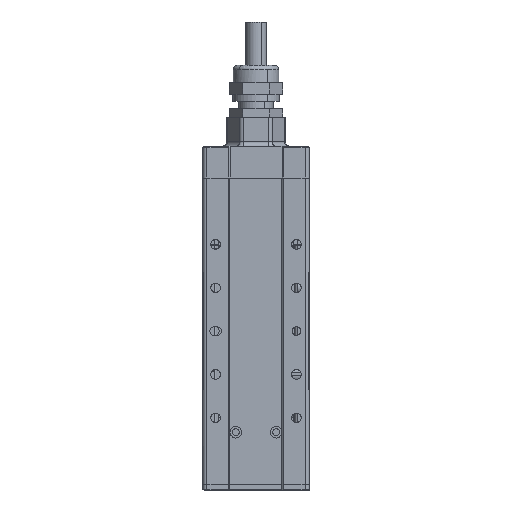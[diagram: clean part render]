
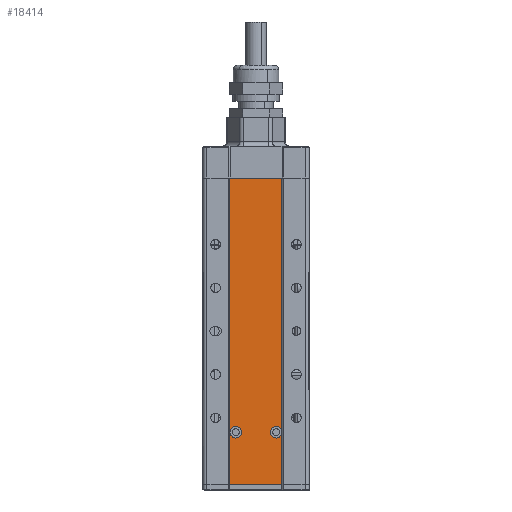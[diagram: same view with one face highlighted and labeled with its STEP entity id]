
A CAD part, front view. The second image highlights one B-rep face of the part: STEP entity #18414.
In plain terms, the highlighted planar face has unit normal (0, -1, 0).
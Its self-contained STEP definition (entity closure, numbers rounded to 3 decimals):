
#87 = VECTOR ( 'NONE', #21578, 1000. ) ;
#109 = CARTESIAN_POINT ( 'NONE',  ( 5.527, -13.558, 32. ) ) ;
#320 = VERTEX_POINT ( 'NONE', #13777 ) ;
#1490 = CARTESIAN_POINT ( 'NONE',  ( -10.473, -13.558, 14. ) ) ;
#1662 = AXIS2_PLACEMENT_3D ( 'NONE', #1490, #20070, #5834 ) ;
#1779 = EDGE_LOOP ( 'NONE', ( #23315, #22729, #22719, #24799, #9998, #25280, #20981, #6293, #4975, #2853 ) ) ;
#2021 = EDGE_CURVE ( 'NONE', #9299, #9116, #19161, .T. ) ;
#2453 = CARTESIAN_POINT ( 'NONE',  ( -10.473, -13.558, 32. ) ) ;
#2853 = ORIENTED_EDGE ( 'NONE', *, *, #15925, .F. ) ;
#3342 = LINE ( 'NONE', #23634, #9493 ) ;
#3620 = AXIS2_PLACEMENT_3D ( 'NONE', #5995, #19971, #9686 ) ;
#4477 = CARTESIAN_POINT ( 'NONE',  ( -10.473, -13.558, 14. ) ) ;
#4654 = DIRECTION ( 'NONE',  ( -1., 0., 0. ) ) ;
#4975 = ORIENTED_EDGE ( 'NONE', *, *, #5199, .F. ) ;
#5199 = EDGE_CURVE ( 'NONE', #6371, #16030, #19613, .T. ) ;
#5834 = DIRECTION ( 'NONE',  ( -1., 0., 0. ) ) ;
#5995 = CARTESIAN_POINT ( 'NONE',  ( 5.527, -13.558, 32. ) ) ;
#6175 = CARTESIAN_POINT ( 'NONE',  ( 7.527, -13.558, 32. ) ) ;
#6293 = ORIENTED_EDGE ( 'NONE', *, *, #25617, .T. ) ;
#6371 = VERTEX_POINT ( 'NONE', #7585 ) ;
#6867 = CARTESIAN_POINT ( 'NONE',  ( 7.527, -13.558, 14. ) ) ;
#7172 = CIRCLE ( 'NONE', #21902, 2. ) ;
#7585 = CARTESIAN_POINT ( 'NONE',  ( 3.527, -13.558, 32. ) ) ;
#7854 = EDGE_CURVE ( 'NONE', #13885, #320, #22657, .T. ) ;
#9116 = VERTEX_POINT ( 'NONE', #25049 ) ;
#9299 = VERTEX_POINT ( 'NONE', #15928 ) ;
#9302 = DIRECTION ( 'NONE',  ( 0., 0., 1. ) ) ;
#9435 = VERTEX_POINT ( 'NONE', #2453 ) ;
#9484 = CARTESIAN_POINT ( 'NONE',  ( -8.473, -13.558, 32. ) ) ;
#9493 = VECTOR ( 'NONE', #11372, 1000. ) ;
#9686 = DIRECTION ( 'NONE',  ( -1., 0., 0. ) ) ;
#9740 = DIRECTION ( 'NONE',  ( 0., -1., 0. ) ) ;
#9998 = ORIENTED_EDGE ( 'NONE', *, *, #21961, .F. ) ;
#10570 = DIRECTION ( 'NONE',  ( 0., -1., 0. ) ) ;
#11295 = EDGE_CURVE ( 'NONE', #11786, #9435, #13134, .T. ) ;
#11325 = DIRECTION ( 'NONE',  ( -1., 0., 0. ) ) ;
#11372 = DIRECTION ( 'NONE',  ( 0., 0., 1. ) ) ;
#11786 = VERTEX_POINT ( 'NONE', #15295 ) ;
#12245 = DIRECTION ( 'NONE',  ( -1., 0., 0. ) ) ;
#12444 = AXIS2_PLACEMENT_3D ( 'NONE', #109, #9740, #13691 ) ;
#13134 = CIRCLE ( 'NONE', #21574, 2. ) ;
#13535 = CARTESIAN_POINT ( 'NONE',  ( -10.473, -13.558, 14. ) ) ;
#13691 = DIRECTION ( 'NONE',  ( -1., 0., 0. ) ) ;
#13777 = CARTESIAN_POINT ( 'NONE',  ( -10.473, -13.558, 14. ) ) ;
#13885 = VERTEX_POINT ( 'NONE', #6867 ) ;
#14071 = LINE ( 'NONE', #17783, #21696 ) ;
#14726 = EDGE_CURVE ( 'NONE', #9435, #9116, #14071, .T. ) ;
#15238 = CARTESIAN_POINT ( 'NONE',  ( 7.527, -13.558, 14. ) ) ;
#15295 = CARTESIAN_POINT ( 'NONE',  ( -6.473, -13.558, 32. ) ) ;
#15763 = LINE ( 'NONE', #15238, #26030 ) ;
#15925 = EDGE_CURVE ( 'NONE', #16030, #6371, #24194, .T. ) ;
#15928 = CARTESIAN_POINT ( 'NONE',  ( 7.527, -13.558, 120. ) ) ;
#16030 = VERTEX_POINT ( 'NONE', #6175 ) ;
#16915 = CARTESIAN_POINT ( 'NONE',  ( -10.473, -13.558, 120. ) ) ;
#17271 = DIRECTION ( 'NONE',  ( 0., -1., 0. ) ) ;
#17437 = DIRECTION ( 'NONE',  ( -1., 0., 0. ) ) ;
#17783 = CARTESIAN_POINT ( 'NONE',  ( -10.473, -13.558, 14. ) ) ;
#17831 = FACE_OUTER_BOUND ( 'NONE', #1779, .T. ) ;
#18414 = ADVANCED_FACE ( 'NONE', ( #17831 ), #23762, .F. ) ;
#19161 = LINE ( 'NONE', #16915, #21802 ) ;
#19613 = CIRCLE ( 'NONE', #3620, 2. ) ;
#19732 = EDGE_CURVE ( 'NONE', #16030, #9299, #15763, .T. ) ;
#19971 = DIRECTION ( 'NONE',  ( 0., -1., 0. ) ) ;
#20070 = DIRECTION ( 'NONE',  ( 0., 1., 0. ) ) ;
#20475 = CARTESIAN_POINT ( 'NONE',  ( -8.473, -13.558, 32. ) ) ;
#20981 = ORIENTED_EDGE ( 'NONE', *, *, #7854, .F. ) ;
#21574 = AXIS2_PLACEMENT_3D ( 'NONE', #20475, #10570, #4654 ) ;
#21578 = DIRECTION ( 'NONE',  ( 0., 0., 1. ) ) ;
#21696 = VECTOR ( 'NONE', #26083, 1000. ) ;
#21710 = LINE ( 'NONE', #13535, #87 ) ;
#21802 = VECTOR ( 'NONE', #17437, 1000. ) ;
#21902 = AXIS2_PLACEMENT_3D ( 'NONE', #9484, #17271, #11325 ) ;
#21961 = EDGE_CURVE ( 'NONE', #9435, #11786, #7172, .T. ) ;
#22657 = LINE ( 'NONE', #4477, #23243 ) ;
#22719 = ORIENTED_EDGE ( 'NONE', *, *, #14726, .F. ) ;
#22729 = ORIENTED_EDGE ( 'NONE', *, *, #2021, .T. ) ;
#23243 = VECTOR ( 'NONE', #12245, 1000. ) ;
#23315 = ORIENTED_EDGE ( 'NONE', *, *, #19732, .T. ) ;
#23551 = EDGE_CURVE ( 'NONE', #320, #9435, #21710, .T. ) ;
#23634 = CARTESIAN_POINT ( 'NONE',  ( 7.527, -13.558, 14. ) ) ;
#23762 = PLANE ( 'NONE',  #1662 ) ;
#24194 = CIRCLE ( 'NONE', #12444, 2. ) ;
#24799 = ORIENTED_EDGE ( 'NONE', *, *, #11295, .F. ) ;
#25049 = CARTESIAN_POINT ( 'NONE',  ( -10.473, -13.558, 120. ) ) ;
#25280 = ORIENTED_EDGE ( 'NONE', *, *, #23551, .F. ) ;
#25617 = EDGE_CURVE ( 'NONE', #13885, #16030, #3342, .T. ) ;
#26030 = VECTOR ( 'NONE', #9302, 1000. ) ;
#26083 = DIRECTION ( 'NONE',  ( 0., 0., 1. ) ) ;
